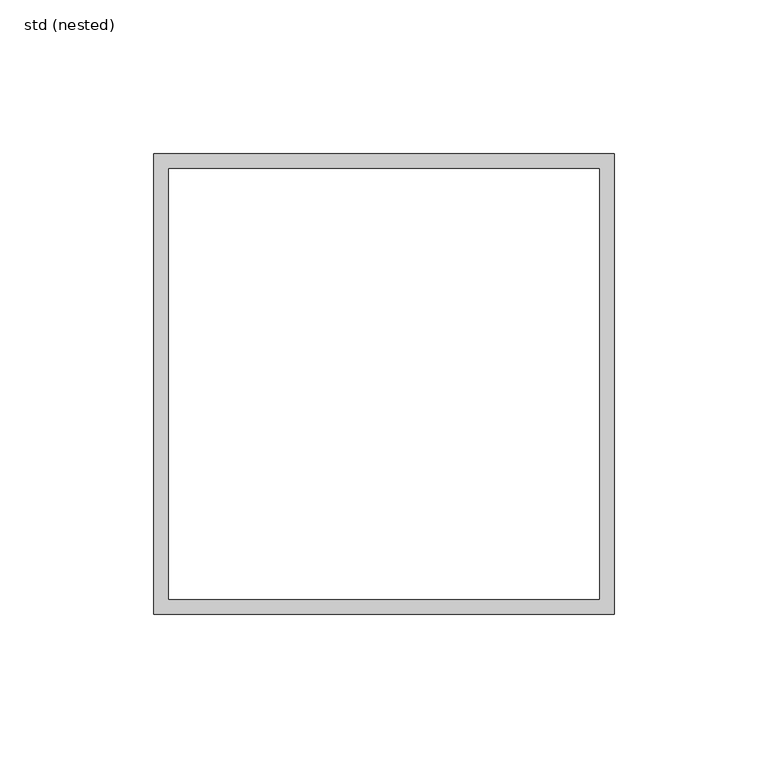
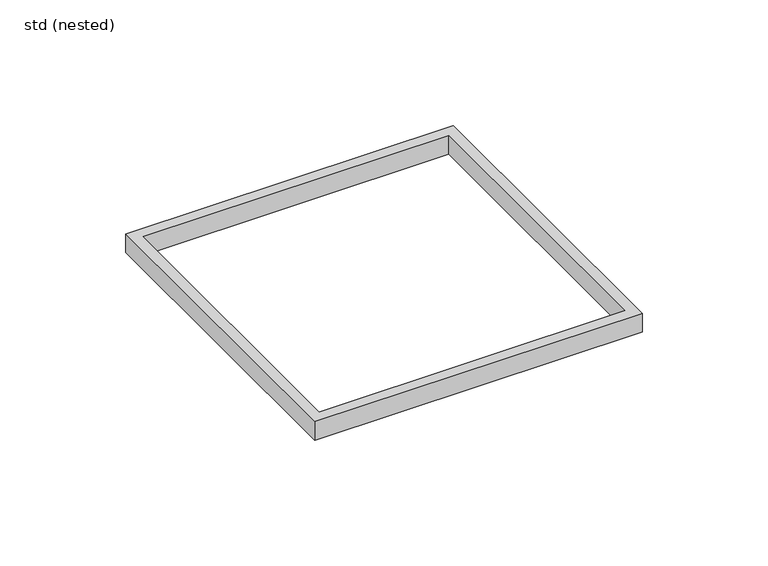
"""IFC4 building model written with IfcOpenShell, lengths in millimetres: sanitary terminal geometry, ZZZ_do_not_use_PF_GEN_UN_top frame_ACO : std (nested)."""

from ifc_helpers import new_model, si_unit, frame, origin, place, context, project, spatial, polyline, outline, extrude, source, transform, mapped, element, save


def std_nested_fb8b9016(model_context):
    return source(origin(), model_context, "Body", "SweptSolid", [
        extrude(outline(polyline([(75.0, 75.0), (75.0, -75.0), (-75.0, -75.0), (-75.0, 75.0), (75.0, 75.0)]), holes=[polyline([(70.0, 70.0), (-70.0, 70.0), (-70.0, -70.0), (70.0, -70.0), (70.0, 70.0)])]), frame((0.0, 0.0, -9.0), z_axis=(0.0, 0.0, 1.0), x_axis=(1.0, 0.0, 0.0)), (0.0, 0.0, 1.0), 9.0),
    ])


if __name__ == "__main__":
    model = new_model("IFC4")
    model_context = context("Model", 3, world=origin())
    ifc_project = project(units=[si_unit("LENGTHUNIT", "METRE", prefix="MILLI")], contexts=[model_context])
    site = spatial("IfcSite", under=ifc_project)
    building = spatial("IfcBuilding", under=site)
    placement = place(None, origin())
    std_nested_shape = std_nested_fb8b9016(model_context)
    element("IfcSanitaryTerminal", 1, ObjectType="ZZZ_do_not_use_PF_GEN_UN_top frame_ACO : std (nested)", at=placement, inside=building, context=model_context, shape_type="MappedRepresentation", body=[
        mapped(std_nested_shape, transform((0.0, 0.0, 0.0), x_axis=(1.0, 0.0, 0.0), y_axis=(0.0, 1.0, 0.0), z_axis=(0.0, 0.0, 1.0))),
    ])
    save(model, "model.ifc")
